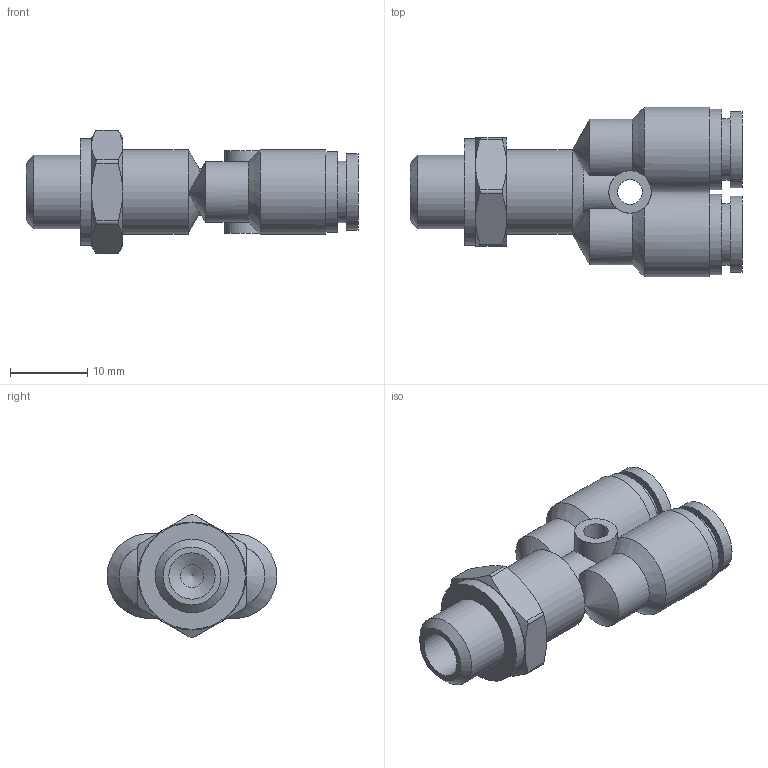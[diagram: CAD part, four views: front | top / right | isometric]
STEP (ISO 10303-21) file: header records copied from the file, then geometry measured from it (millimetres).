
FILE_DESCRIPTION((''),'2;1');
FILE_NAME('S:\UTecnico\ArchivioUT\Speciali Clienti\Speciali KONFIT\DISEGNI 3D\RP\RP 74\RP741804.stp','2012-12-10T08:50:56',('UT5'),(''),'Autodesk Inventor 2012','Autodesk Inventor 2012','');
FILE_SCHEMA(('AUTOMOTIVE_DESIGN { 1 0 10303 214 1 1 1 1 }'));
Length unit declared in the file: millimetre
Products named in the file (1): RP741804
Bounding box: 43 x 22 x 16.01 mm (x, y, z)
Volume: 4752.4 mm3; surface area: 3523.3 mm2
Topology: 1 solids, 1 shells, 71 faces, 159 edges, 94 vertices
Faces by surface type: cylinder 28, cone 23, plane 20
Full cylindrical faces by diameter (mm): 3 x1, 3.2 x1, 4 x2, 5.5 x2, 6 x1, 8 x2, 9.5 x1, 9.85 x2, 10.4 x2, 11 x3, 13.8 x1
Entity records: 2049 total; most frequent: CARTESIAN_POINT 622, DIRECTION 274, ORIENTED_EDGE 260, EDGE_CURVE 130, AXIS2_PLACEMENT_3D 126, EDGE_LOOP 103, VERTEX_POINT 88, FACE_OUTER_BOUND 71
